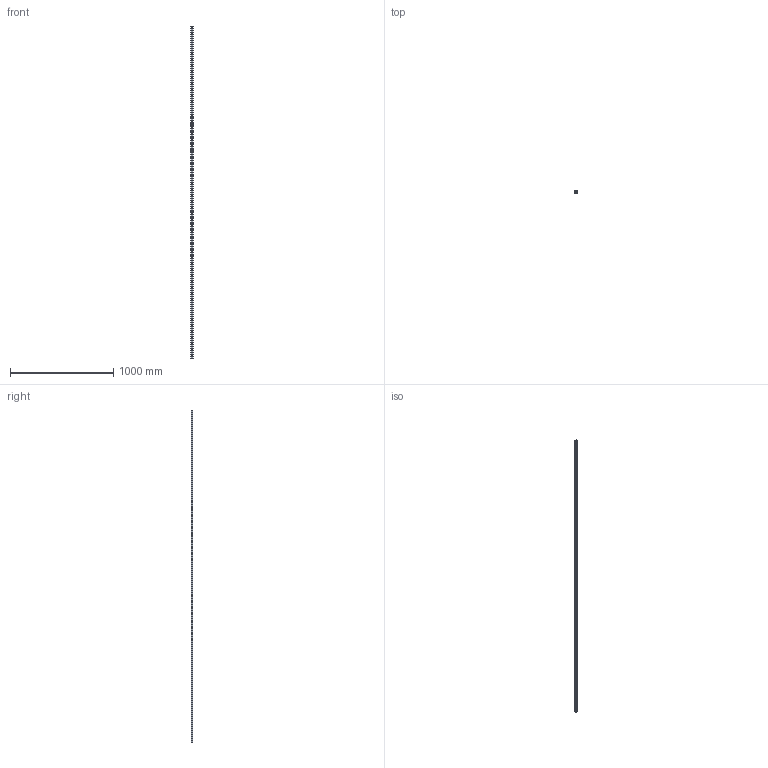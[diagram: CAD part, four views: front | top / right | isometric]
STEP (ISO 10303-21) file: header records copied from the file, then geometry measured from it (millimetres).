
FILE_DESCRIPTION (( 'STEP AP203' ), '1' );
FILE_NAME ('L1016.BL25-3220.step', '2019-06-12T12:14:21', ( '' ), ( '' ), 'SwSTEP 2.0', 'SolidWorks 2017', '' );
FILE_SCHEMA (( 'CONFIG_CONTROL_DESIGN' ));
Length unit declared in the file: millimetre
Products named in the file (1): L1016.BL25-3220
Bounding box: 23 x 19.2 x 3220 mm (x, y, z)
Volume: 1186648.6 mm3; surface area: 304583.4 mm2
Topology: 1 solids, 1 shells, 296 faces, 720 edges, 480 vertices
Faces by surface type: cylinder 220, plane 76
Entity records: 9217 total; most frequent: DIRECTION 1754, CARTESIAN_POINT 1497, ORIENTED_EDGE 1440, AXIS2_PLACEMENT_3D 737, EDGE_CURVE 720, VERTEX_POINT 480, EDGE_LOOP 458, CIRCLE 440
